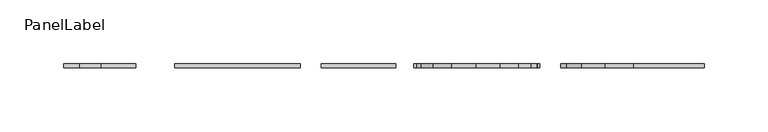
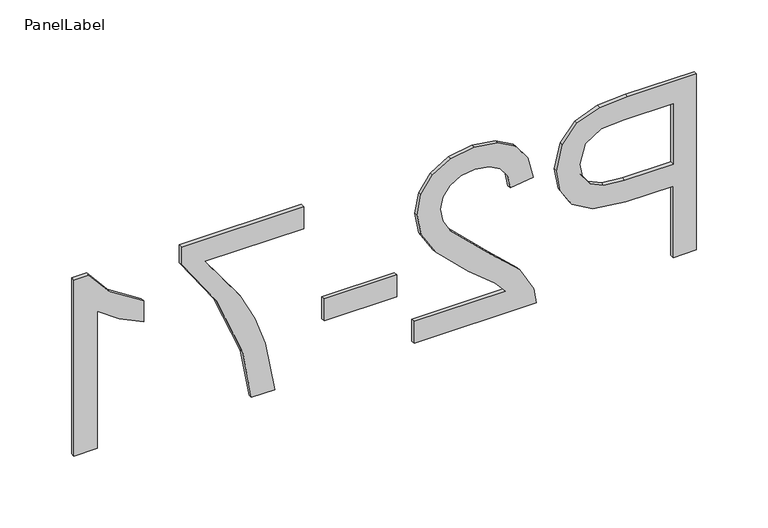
"""IFC4 building model written with IfcOpenShell, lengths in millimetres: fastener geometry, PanelLabel : Miranda."""

from ifc_helpers import new_model, si_unit, frame, origin, place, context, project, spatial, polyline, outline, extrude, source, transform, mapped, element, save


def panellabel_18be6eab(model_context):
    return source(origin(), model_context, "Body", "SweptSolid", [
        extrude(outline(polyline([(1310.9113766, 260.2523077), (1460.9667612, 260.2523077), (1460.9667612, 204.6409615), (1459.5380112, 182.2205769), (1452.5224823, 163.9948558), (1438.0151747, 152.1801923), (1417.554742, 147.7107692), (1399.8693814, 150.7285457), (1385.1331073, 159.781875), (1375.1868093, 176.7116466), (1371.8713766, 203.35875), (1371.8713766, 241.4953846), (1310.9113766, 241.4953846), (1310.9113766, 260.2523077)]), holes=[polyline([(1390.6282997, 241.4953846), (1390.6282997, 202.2597115), (1392.3501266, 185.6275962), (1397.5156073, 174.6372115), (1405.8041891, 168.5100721), (1416.8953189, 166.4676923), (1432.4283958, 171.2851442), (1440.9276266, 183.9424038), (1442.2098381, 202.6993269), (1442.2098381, 241.4953846), (1390.6282997, 241.4953846)])]), frame((0.0, 60.325, 0.0), z_axis=(0.0, 1.0, 0.0), x_axis=(0.0, 0.0, 1.0)), (0.0, 0.0, 1.0), 3.175),
        extrude(outline(polyline([(1329.6682997, 32.8246154), (1310.9113766, 32.8246154), (1310.9113766, 131.2984615), (1323.8433958, 129.2835577), (1343.7543093, 117.8901923), (1365.4969535, 94.4074038), (1396.7462804, 62.0224038), (1407.5168573, 55.9502163), (1417.9943573, 53.9261538), (1427.3865569, 55.8357332), (1435.1943093, 61.5644712), (1440.4559559, 70.3705168), (1442.2098381, 81.5120192), (1440.4971698, 93.2121995), (1435.359165, 102.3021635), (1427.1988045, 108.1682813), (1416.4190689, 110.1969231), (1418.7636843, 128.9538462), (1436.9069775, 124.4065745), (1450.1595497, 114.5747596), (1458.2649583, 99.9712861), (1460.9667612, 81.1090385), (1457.9627227, 62.1094111), (1448.9506073, 47.5334135), (1435.4873862, 38.2602764), (1419.1300304, 35.1692308), (1401.3439247, 38.5029808), (1382.9533477, 49.5849519), (1357.254165, 76.4564423), (1339.211617, 98.0342308), (1329.6682997, 106.4968269), (1329.6682997, 32.8246154)])), frame((0.0, 60.325, 0.0), z_axis=(0.0, 1.0, 0.0), x_axis=(0.0, 0.0, 1.0)), (0.0, 0.0, 1.0), 3.175),
        extrude(outline(polyline([(-39.8584615, 63.5), (18.7569231, 63.5), (18.7569231, 60.325), (-39.8584615, 60.325), (-39.8584615, 63.5)])), frame((0.0, 0.0, 1355.4590689), z_axis=(0.0, 0.0, 1.0), x_axis=(1.0, 0.0, 0.0)), (0.0, 0.0, 1.0), 18.7569231),
        extrude(outline(polyline([(1439.8652227, -56.2707692), (1458.6221458, -56.2707692), (1458.6221458, -154.7446154), (1443.455415, -154.7446154), (1403.1023862, -126.8107212), (1351.6857035, -105.4344231), (1310.9113766, -98.4738462), (1310.9113766, -79.7169231), (1353.2243573, -87.1720673), (1377.5817972, -95.8498918), (1401.0508477, -107.6325), (1439.8652227, -135.9876923), (1439.8652227, -56.2707692)])), frame((0.0, 60.325, 0.0), z_axis=(0.0, 1.0, 0.0), x_axis=(0.0, 0.0, 1.0)), (0.0, 0.0, 1.0), 3.175),
        extrude(outline(polyline([(1310.9113766, -241.4953846), (1310.9113766, -222.7384615), (1427.8490689, -222.7384615), (1415.1918093, -204.9706731), (1405.7217612, -185.2246154), (1423.452915, -185.2246154), (1441.0008958, -212.7188942), (1460.9667612, -229.4059615), (1460.9667612, -241.4953846), (1310.9113766, -241.4953846)])), frame((0.0, 60.325, 0.0), z_axis=(0.0, 1.0, 0.0), x_axis=(0.0, 0.0, 1.0)), (0.0, 0.0, 1.0), 3.175),
    ])


if __name__ == "__main__":
    model = new_model("IFC4")
    model_context = context("Model", 3, world=origin())
    ifc_project = project(units=[si_unit("LENGTHUNIT", "METRE", prefix="MILLI")], contexts=[model_context])
    site = spatial("IfcSite", under=ifc_project)
    building = spatial("IfcBuilding", under=site)
    placement = place(None, origin())
    panellabel_shape = panellabel_18be6eab(model_context)
    element("IfcFastener", 1, ObjectType="PanelLabel : Miranda", at=placement, inside=building, context=model_context, shape_type="MappedRepresentation", body=[
        mapped(panellabel_shape, transform((0.0, 0.0, 0.0), x_axis=(1.0, 0.0, 0.0), y_axis=(0.0, 1.0, 0.0), z_axis=(0.0, 0.0, 1.0))),
    ])
    save(model, "model.ifc")
